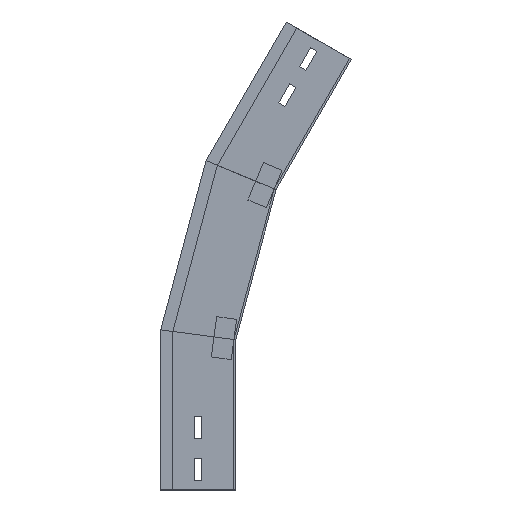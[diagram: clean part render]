
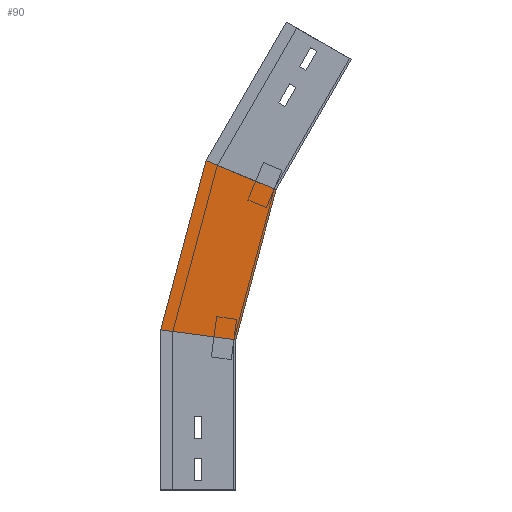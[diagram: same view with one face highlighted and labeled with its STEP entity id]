
A CAD part, left-side view. The second image highlights one B-rep face of the part: STEP entity #90.
In plain terms, the highlighted planar face has unit normal (-1, 0, 0) as drawn and (1, 0, 0) by its records, which use the part's own axes.
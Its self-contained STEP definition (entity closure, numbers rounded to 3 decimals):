
#37 = CARTESIAN_POINT ( 'NONE',  ( 0., -60.13, 291.429 ) ) ;
#43 = DIRECTION ( 'NONE',  ( 0., -0.991, -0.131 ) ) ;
#90 = ADVANCED_FACE ( 'NONE', ( #1430 ), #399, .T. ) ;
#97 = ORIENTED_EDGE ( 'NONE', *, *, #101, .T. ) ;
#101 = EDGE_CURVE ( 'NONE', #589, #520, #843, .T. ) ;
#154 = CARTESIAN_POINT ( 'NONE',  ( 0., 75.281, 158.824 ) ) ;
#181 = VERTEX_POINT ( 'NONE', #598 ) ;
#199 = CARTESIAN_POINT ( 'NONE',  ( 0., 2.837, 139.412 ) ) ;
#281 = CARTESIAN_POINT ( 'NONE',  ( 0., 75., 159.874 ) ) ;
#308 = VECTOR ( 'NONE', #43, 1000. ) ;
#341 = DIRECTION ( 'NONE',  ( 0., -0.259, 0.966 ) ) ;
#392 = EDGE_LOOP ( 'NONE', ( #1026, #97, #1397, #858 ) ) ;
#399 = PLANE ( 'NONE',  #662 ) ;
#440 = VECTOR ( 'NONE', #341, 1000. ) ;
#446 = EDGE_CURVE ( 'NONE', #1238, #589, #1196, .T. ) ;
#497 = CARTESIAN_POINT ( 'NONE',  ( 0., -19.411, 147.444 ) ) ;
#520 = VERTEX_POINT ( 'NONE', #950 ) ;
#548 = EDGE_CURVE ( 'NONE', #1238, #181, #1421, .T. ) ;
#589 = VERTEX_POINT ( 'NONE', #1186 ) ;
#598 = CARTESIAN_POINT ( 'NONE',  ( 0., 0., 150. ) ) ;
#619 = DIRECTION ( 'NONE',  ( 0., -0.924, -0.383 ) ) ;
#662 = AXIS2_PLACEMENT_3D ( 'NONE', #1316, #1460, #1444 ) ;
#676 = VECTOR ( 'NONE', #881, 1000. ) ;
#751 = VECTOR ( 'NONE', #619, 1000. ) ;
#843 = LINE ( 'NONE', #37, #751 ) ;
#858 = ORIENTED_EDGE ( 'NONE', *, *, #548, .F. ) ;
#881 = DIRECTION ( 'NONE',  ( 0., -0.259, 0.966 ) ) ;
#950 = CARTESIAN_POINT ( 'NONE',  ( 0., -40.117, 299.719 ) ) ;
#1026 = ORIENTED_EDGE ( 'NONE', *, *, #446, .T. ) ;
#1117 = LINE ( 'NONE', #199, #676 ) ;
#1186 = CARTESIAN_POINT ( 'NONE',  ( 0., 29.772, 328.667 ) ) ;
#1196 = LINE ( 'NONE', #154, #440 ) ;
#1238 = VERTEX_POINT ( 'NONE', #281 ) ;
#1316 = CARTESIAN_POINT ( 'NONE',  ( 0., 2.837, 139.412 ) ) ;
#1322 = EDGE_CURVE ( 'NONE', #181, #520, #1117, .T. ) ;
#1397 = ORIENTED_EDGE ( 'NONE', *, *, #1322, .F. ) ;
#1421 = LINE ( 'NONE', #497, #308 ) ;
#1430 = FACE_OUTER_BOUND ( 'NONE', #392, .T. ) ;
#1444 = DIRECTION ( 'NONE',  ( 0., 0., -1. ) ) ;
#1460 = DIRECTION ( 'NONE',  ( 1., 0., 0. ) ) ;
